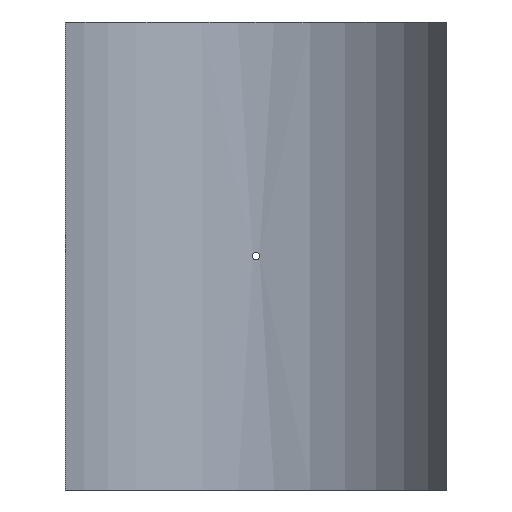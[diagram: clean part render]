
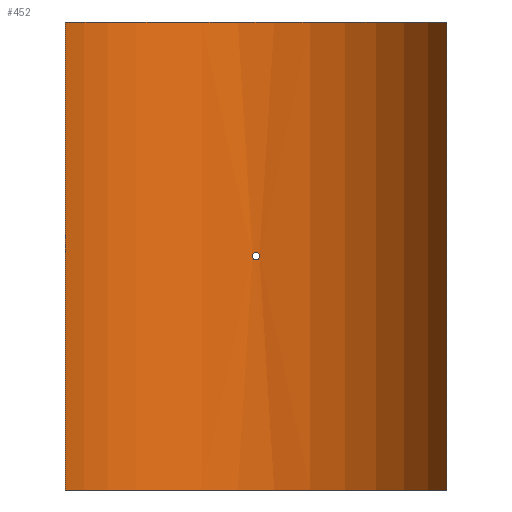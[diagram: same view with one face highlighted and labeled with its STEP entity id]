
A CAD part, front view. The second image highlights one B-rep face of the part: STEP entity #452.
In plain terms, the highlighted cylindrical face has radius 280 mm (diameter 560 mm), a partial arc.
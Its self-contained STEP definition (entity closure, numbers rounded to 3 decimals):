
#19=B_SPLINE_CURVE_WITH_KNOTS('',3,(#796,#797,#798,#799,#800,#801,#802,
#803,#804,#805,#806,#807,#808,#809,#810,#811,#812,#813,#814,#815,#816,#817,
#818,#819,#820,#821,#822,#823,#824,#825,#826,#827,#828,#829),
 .UNSPECIFIED.,.T.,.F.,(4,2,2,2,2,2,2,2,2,2,2,2,2,2,2,2,4),(0.,0.181,
0.362,0.542,0.723,0.904,
1.085,1.266,1.447,1.627,1.808,
1.989,2.17,2.351,2.531,2.712,
2.893),.UNSPECIFIED.);
#43=LINE('',#1097,#62);
#44=LINE('',#1100,#63);
#62=VECTOR('',#661,10.);
#63=VECTOR('',#664,10.);
#76=CYLINDRICAL_SURFACE('',#530,280.);
#88=FACE_BOUND('',#167,.T.);
#127=FACE_OUTER_BOUND('',#166,.T.);
#166=EDGE_LOOP('',(#405,#406,#407,#408));
#167=EDGE_LOOP('',(#409));
#201=CIRCLE('',#529,280.);
#202=CIRCLE('',#531,280.);
#219=VERTEX_POINT('',#794);
#242=VERTEX_POINT('',#1090);
#243=VERTEX_POINT('',#1092);
#244=VERTEX_POINT('',#1096);
#245=VERTEX_POINT('',#1098);
#267=EDGE_CURVE('',#219,#219,#19,.T.);
#299=EDGE_CURVE('',#242,#243,#201,.T.);
#301=EDGE_CURVE('',#244,#242,#43,.T.);
#302=EDGE_CURVE('',#245,#244,#202,.T.);
#303=EDGE_CURVE('',#245,#243,#44,.T.);
#405=ORIENTED_EDGE('',*,*,#301,.F.);
#406=ORIENTED_EDGE('',*,*,#302,.F.);
#407=ORIENTED_EDGE('',*,*,#303,.T.);
#408=ORIENTED_EDGE('',*,*,#299,.F.);
#409=ORIENTED_EDGE('',*,*,#267,.T.);
#452=ADVANCED_FACE('',(#127,#88),#76,.F.);
#529=AXIS2_PLACEMENT_3D('',#1093,#656,#657);
#530=AXIS2_PLACEMENT_3D('',#1095,#659,#660);
#531=AXIS2_PLACEMENT_3D('',#1099,#662,#663);
#656=DIRECTION('center_axis',(0.,0.,1.));
#657=DIRECTION('ref_axis',(0.902,0.432,0.));
#659=DIRECTION('center_axis',(0.,0.,1.));
#660=DIRECTION('ref_axis',(0.902,0.432,0.));
#661=DIRECTION('',(0.,0.,-1.));
#662=DIRECTION('center_axis',(0.,0.,-1.));
#663=DIRECTION('ref_axis',(0.902,0.432,0.));
#664=DIRECTION('',(0.,0.,-1.));
#794=CARTESIAN_POINT('',(4.8,279.959,0.));
#796=CARTESIAN_POINT('Ctrl Pts',(4.8,279.959,0.));
#797=CARTESIAN_POINT('Ctrl Pts',(4.8,279.959,-0.603));
#798=CARTESIAN_POINT('Ctrl Pts',(4.68,279.961,-1.246));
#799=CARTESIAN_POINT('Ctrl Pts',(4.19,279.969,-2.428));
#800=CARTESIAN_POINT('Ctrl Pts',(3.82,279.974,-2.968));
#801=CARTESIAN_POINT('Ctrl Pts',(2.968,279.985,-3.82));
#802=CARTESIAN_POINT('Ctrl Pts',(2.428,279.99,-4.19));
#803=CARTESIAN_POINT('Ctrl Pts',(1.246,279.998,-4.68));
#804=CARTESIAN_POINT('Ctrl Pts',(0.603,280.,-4.8));
#805=CARTESIAN_POINT('Ctrl Pts',(-0.603,280.,-4.8));
#806=CARTESIAN_POINT('Ctrl Pts',(-1.246,279.998,-4.68));
#807=CARTESIAN_POINT('Ctrl Pts',(-2.428,279.99,-4.19));
#808=CARTESIAN_POINT('Ctrl Pts',(-2.968,279.985,-3.82));
#809=CARTESIAN_POINT('Ctrl Pts',(-3.82,279.974,-2.968));
#810=CARTESIAN_POINT('Ctrl Pts',(-4.19,279.969,-2.428));
#811=CARTESIAN_POINT('Ctrl Pts',(-4.68,279.961,-1.246));
#812=CARTESIAN_POINT('Ctrl Pts',(-4.8,279.959,-0.603));
#813=CARTESIAN_POINT('Ctrl Pts',(-4.8,279.959,0.603));
#814=CARTESIAN_POINT('Ctrl Pts',(-4.68,279.961,1.246));
#815=CARTESIAN_POINT('Ctrl Pts',(-4.19,279.969,2.428));
#816=CARTESIAN_POINT('Ctrl Pts',(-3.82,279.974,2.968));
#817=CARTESIAN_POINT('Ctrl Pts',(-2.968,279.985,3.82));
#818=CARTESIAN_POINT('Ctrl Pts',(-2.428,279.99,4.19));
#819=CARTESIAN_POINT('Ctrl Pts',(-1.246,279.998,4.68));
#820=CARTESIAN_POINT('Ctrl Pts',(-0.603,280.,4.8));
#821=CARTESIAN_POINT('Ctrl Pts',(0.603,280.,4.8));
#822=CARTESIAN_POINT('Ctrl Pts',(1.246,279.998,4.68));
#823=CARTESIAN_POINT('Ctrl Pts',(2.428,279.99,4.19));
#824=CARTESIAN_POINT('Ctrl Pts',(2.968,279.985,3.82));
#825=CARTESIAN_POINT('Ctrl Pts',(3.82,279.974,2.968));
#826=CARTESIAN_POINT('Ctrl Pts',(4.19,279.969,2.428));
#827=CARTESIAN_POINT('Ctrl Pts',(4.68,279.961,1.246));
#828=CARTESIAN_POINT('Ctrl Pts',(4.8,279.959,0.603));
#829=CARTESIAN_POINT('Ctrl Pts',(4.8,279.959,0.));
#1090=CARTESIAN_POINT('',(252.5,121.011,-310.));
#1092=CARTESIAN_POINT('',(-252.5,121.011,-310.));
#1093=CARTESIAN_POINT('Origin',(0.,0.,
-310.));
#1095=CARTESIAN_POINT('Origin',(0.,0.,
0.));
#1096=CARTESIAN_POINT('',(252.5,121.011,310.));
#1097=CARTESIAN_POINT('',(252.5,121.011,0.));
#1098=CARTESIAN_POINT('',(-252.5,121.011,310.));
#1099=CARTESIAN_POINT('Origin',(0.,0.,
310.));
#1100=CARTESIAN_POINT('',(-252.5,121.011,0.));
